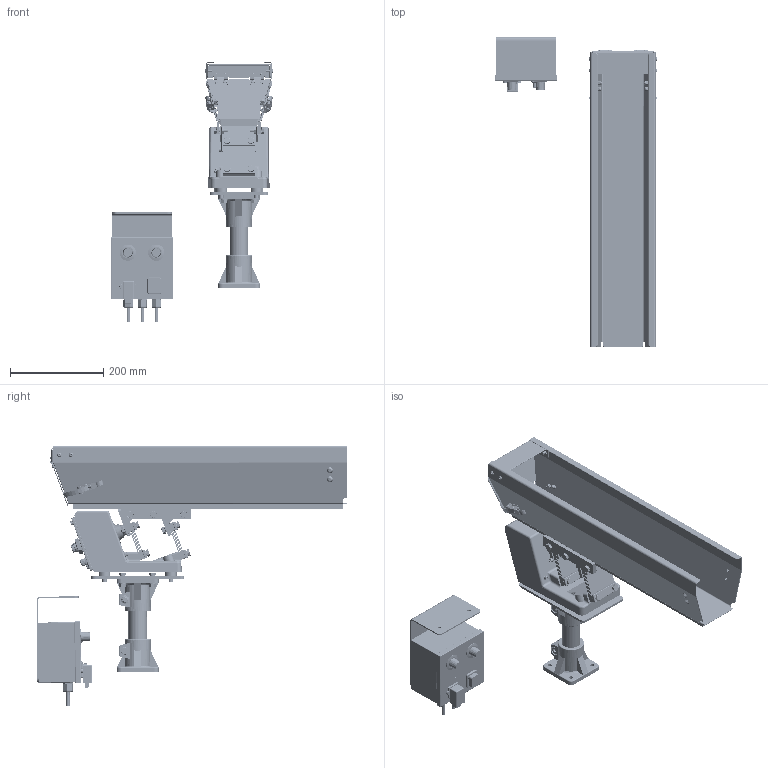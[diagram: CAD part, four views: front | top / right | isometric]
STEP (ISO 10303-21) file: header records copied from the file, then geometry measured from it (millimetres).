
FILE_DESCRIPTION (( 'STEP AP214' ), '1' );
FILE_NAME ('GM000341..step', '2026-10-16T10:44:51', ( '' ), ( '' ), 'SwSTEP 2.0', 'SolidWorks 2025', '' );
FILE_SCHEMA (( 'AUTOMOTIVE_DESIGN' ));
Length unit declared in the file: millimetre
Products named in the file (41): SM000080; CM000305_003; CM000934; CM000031; PD009560_002; PD001091; PD001013; CM000045; CE000026; CM000055; CM000561; CM000029; CM000306; CM000079; PD001014; GM000341.; PD001016; CM000559; CM000071; PD001092; CM000306_003; CM000306_001; CM000305; CM000274; CM000979; CM000922; CM000306_002; PD009560_001; PD000067; CM000432; CM000921; PD009560; CM000925; CM000023; CM000027; CM000924; CM000064; CM000305_002; CM000305_001
Assembly tree (102 placements, depth 3):
  GM000341.
    CM000045  x8
    CM000027  x4
    CM000023  x4
    CM000561  x10
    CM000029  x8
    CM000079  x4
    CM000559  x8
    CM000071  x4
    CM000274  x4
    CM000064  x4
    CM000031  x4
    CM000979  x6
    PD009560
      PD009560_001
      PD009560_002
    CM000306
      CM000306_001
      CM000306_002
      CM000306_003
    CM000306
      CM000306_001
      CM000306_002
      CM000306_003
    PD001016
    CM000432  x2
    PD001014
    PD001013
    CM000055
    PD000067
    CE000026
    CM000305
      CM000305_001
      CM000305_003
      CM000305_002
    CM000305
      CM000305_001
      CM000305_003
      CM000305_002
    PD001092
    PD001091
    SM000080
    CM000934  x4
  CM000922
  CM000921
  CM000925
  CM000924
Bounding box: 346.8 x 665.05 x 558.58 mm (x, y, z)
Volume: 3269558 mm3; surface area: 1368809.4 mm2
Topology: 96 solids, 97 shells, 9485 faces, 25578 edges, 16429 vertices
Faces by surface type: cylinder 6455, plane 1795, cone 788, torus 237, sphere 158, bspline 52
Entity records: 151466 total; most frequent: CARTESIAN_POINT 64304, ORIENTED_EDGE 20084, DIRECTION 13138, EDGE_CURVE 10044, VERTEX_POINT 6322, B_SPLINE_CURVE_WITH_KNOTS 6035, AXIS2_PLACEMENT_3D 5274, EDGE_LOOP 4312
